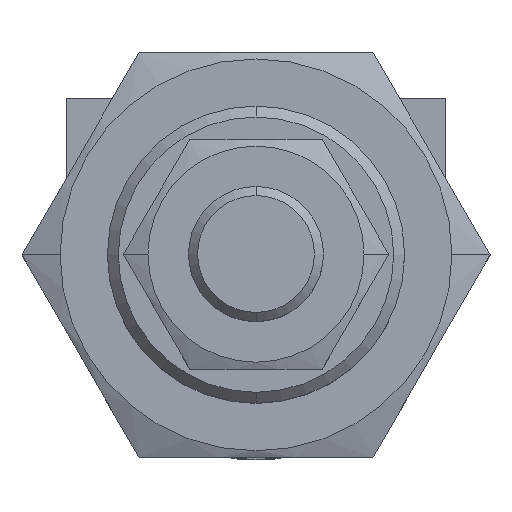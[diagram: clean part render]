
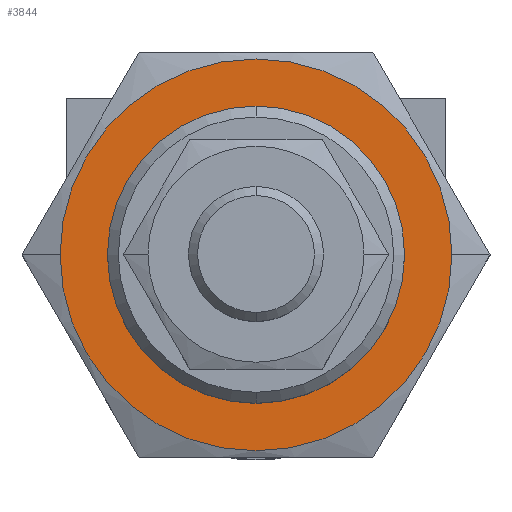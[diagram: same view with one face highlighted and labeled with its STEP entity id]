
A CAD part, top view. The second image highlights one B-rep face of the part: STEP entity #3844.
In plain terms, the highlighted planar face has unit normal (0, 0, 1).
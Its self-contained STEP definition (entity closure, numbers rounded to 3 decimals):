
#3391=CARTESIAN_POINT('',(0.,0.,0.));
#3392=DIRECTION('',(0.,0.,1.));
#3393=DIRECTION('',(0.,1.,0.));
#3394=AXIS2_PLACEMENT_3D('',#3391,#3392,#3393);
#3396=CARTESIAN_POINT('',(0.,0.,0.));
#3397=DIRECTION('',(0.,0.,1.));
#3398=DIRECTION('',(0.,-1.,0.));
#3399=AXIS2_PLACEMENT_3D('',#3396,#3397,#3398);
#3401=CARTESIAN_POINT('',(0.,0.,0.));
#3402=DIRECTION('',(0.,0.,1.));
#3403=DIRECTION('',(0.,1.,0.));
#3404=AXIS2_PLACEMENT_3D('',#3401,#3402,#3403);
#3406=CARTESIAN_POINT('',(0.,0.,0.));
#3407=DIRECTION('',(0.,0.,1.));
#3408=DIRECTION('',(0.,-1.,0.));
#3409=AXIS2_PLACEMENT_3D('',#3406,#3407,#3408);
#3799=CARTESIAN_POINT('',(0.,11.,0.));
#3800=CARTESIAN_POINT('',(0.,-11.,0.));
#3801=VERTEX_POINT('',#3799);
#3802=VERTEX_POINT('',#3800);
#3803=CARTESIAN_POINT('',(0.,14.5,0.));
#3804=CARTESIAN_POINT('',(0.,-14.5,0.));
#3805=VERTEX_POINT('',#3803);
#3806=VERTEX_POINT('',#3804);
#3827=CARTESIAN_POINT('',(0.,0.,0.));
#3828=DIRECTION('',(0.,0.,-1.));
#3829=DIRECTION('',(0.,-1.,0.));
#3830=AXIS2_PLACEMENT_3D('',#3827,#3828,#3829);
#3831=PLANE('',#3830);
#3833=ORIENTED_EDGE('',*,*,#3832,.F.);
#3835=ORIENTED_EDGE('',*,*,#3834,.F.);
#3836=EDGE_LOOP('',(#3833,#3835));
#3837=FACE_OUTER_BOUND('',#3836,.F.);
#3839=ORIENTED_EDGE('',*,*,#3838,.T.);
#3841=ORIENTED_EDGE('',*,*,#3840,.T.);
#3842=EDGE_LOOP('',(#3839,#3841));
#3843=FACE_BOUND('',#3842,.F.);
#3844=ADVANCED_FACE('',(#3837,#3843),#3831,.F.);
#3395=CIRCLE('',#3394,11.);
#3400=CIRCLE('',#3399,11.);
#3405=CIRCLE('',#3404,14.5);
#3410=CIRCLE('',#3409,14.5);
#3832=EDGE_CURVE('',#3805,#3806,#3405,.T.);
#3834=EDGE_CURVE('',#3806,#3805,#3410,.T.);
#3838=EDGE_CURVE('',#3801,#3802,#3395,.T.);
#3840=EDGE_CURVE('',#3802,#3801,#3400,.T.);
